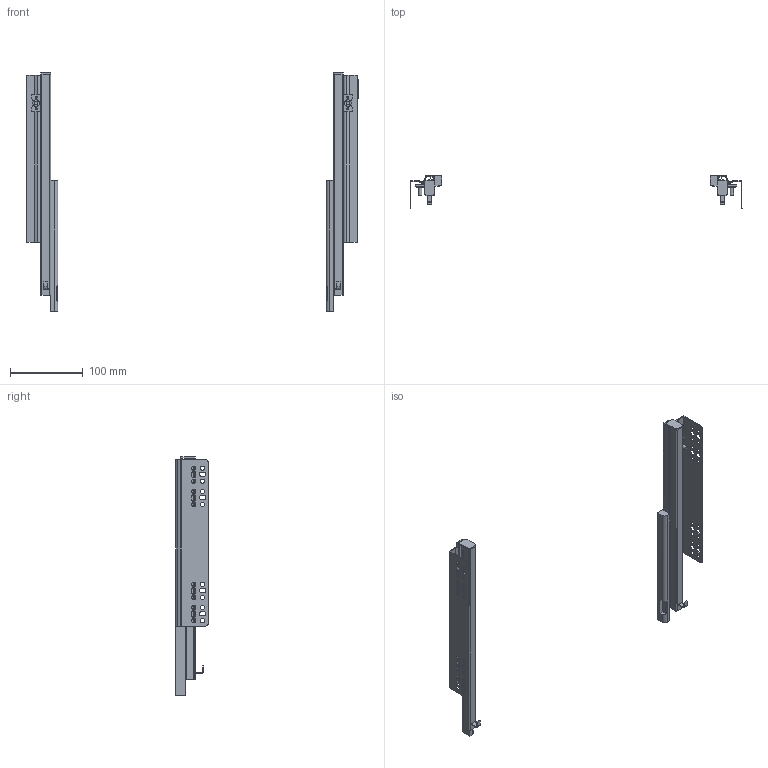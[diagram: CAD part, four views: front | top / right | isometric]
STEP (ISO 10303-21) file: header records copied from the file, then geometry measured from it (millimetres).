
FILE_DESCRIPTION(/* description */ ('Akc'),/* implementation_level */ '2;1');
FILE_NAME(/* name */ 'C:\Users\dmitruk\Documents\WORK\НАПРАВЛЯЮЩИЕ\Скрытого монтажа\Q-Type\Q-Type насадной (16 мм)\Q-Type насадной (16 мм)-300.stp',/* time_stamp */ '2022-04-25T09:43:00+03:00',/* author */ ('dmitruk'),/* organization */ (''),/* preprocessor_version */ 'ST-DEVELOPER v16.5',/* originating_system */ 'Autodesk Inventor 2017',/* authorisation */ '');
FILE_SCHEMA (('AUTOMOTIVE_DESIGN { 1 0 10303 214 3 1 1 }'));
Length unit declared in the file: millimetre
Products named in the file (5): Q-Type насадной (16 \X2\043C
043C\X0\); Q-Type насадной \X2\043E
0441043D043E04320430043D04380435\X0\ L (16 мм); Q-Type насадной \X2\0432
044B04340432043804360435043D04380435\X0\ L; Q-Type насадной \X2\043E
0441043D043E04320430043D04380435\X0\ P (16 мм); Q-Type насадной \X2\0432
044B04340432043804360435043D04380435\X0\ P
Assembly tree (4 placements, depth 2):
  Q-Type насадной (16 \X2\043C
043C\X0\)
    Q-Type насадной \X2\043E
0441043D043E04320430043D04380435\X0\ L (16 мм)
    Q-Type насадной \X2\0432
044B04340432043804360435043D04380435\X0\ L
    Q-Type насадной \X2\043E
0441043D043E04320430043D04380435\X0\ P (16 мм)
    Q-Type насадной \X2\0432
044B04340432043804360435043D04380435\X0\ P
Bounding box: 457.29 x 45 x 329 mm (x, y, z)
Volume: 151340 mm3; surface area: 184566.4 mm2
Topology: 8 solids, 8 shells, 354 faces, 966 edges, 636 vertices
Faces by surface type: plane 212, cylinder 138, bspline 4
Full cylindrical faces by diameter (mm): 3 x4, 5 x2, 6 x32, 9 x2
Entity records: 11825 total; most frequent: CARTESIAN_POINT 2089, DIRECTION 1912, ORIENTED_EDGE 1848, EDGE_CURVE 924, AXIS2_PLACEMENT_3D 641, VERTEX_POINT 634, LINE 630, VECTOR 630
